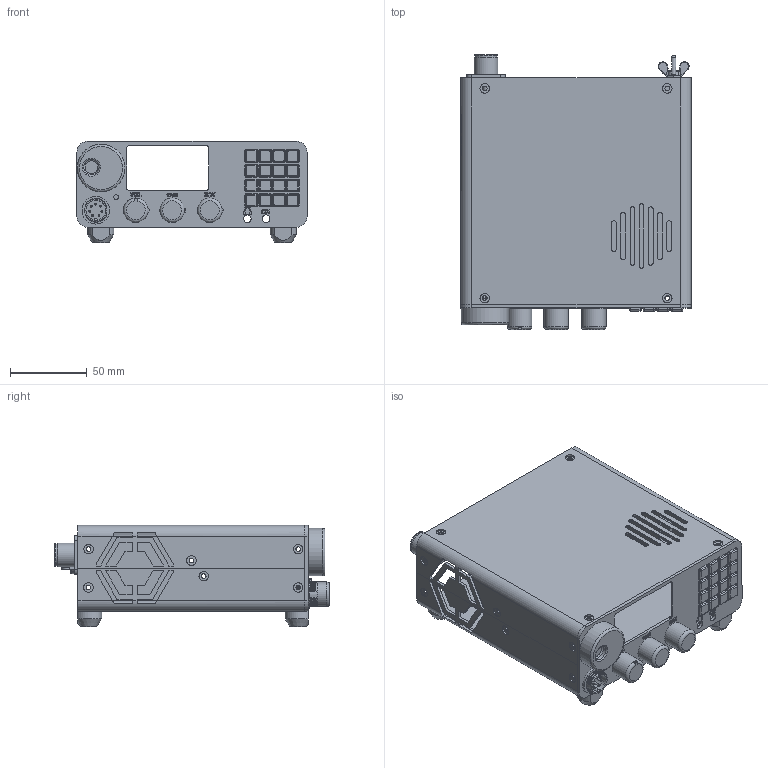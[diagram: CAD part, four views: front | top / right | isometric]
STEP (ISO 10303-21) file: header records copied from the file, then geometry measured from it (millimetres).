
FILE_DESCRIPTION(('STEP AP242 Edition 2','STEP AP242 Edition 2''CAx-IF Rec.Pracs.---Representation and Presentation of Product Manufacturing Information (PMI)---4.0---2014-10-13','STEP AP242 Edition 2''CAx-IF Rec.Pracs.---Representation and Presentation of Product Manufacturing Information (PMI)---4.0---2014-10-13''CAx-IF Rec.Pracs.---3D Tessellated Geometry---0.4---2014-09-14','STEP AP242 Edition 2''CAx-IF Rec.Pracs.---Representation and Presentation of Product Manufacturing Information (PMI)---4.0---2014-10-13''CAx-IF Rec.Pracs.---3D Tessellated Geometry---0.4---2014-09-14''2;1','STEP AP242 Edition 2''CAx-IF Rec.Pracs.---Representation and Presentation of Product Manufacturing Information (PMI)---4.0---2014-10-13''CAx-IF Rec.Pracs.---3D Tessellated Geometry---0.4---2014-09-14''2;1''CAx-IF Rec.Pracs.---User Defined Attributes---1.5---2016-08-15'),'2;1');
FILE_NAME('/vol/tmp/translate-14856278467027873836/Part Studio 1.step','2026-03-10T20:35:30',(''),(''),'ST-DEVELOPER v20','ONSHAPE BY PTC INC, 1.211',' ');
FILE_SCHEMA(('AP242_MANAGED_MODEL_BASED_3D_ENGINEERING_MIM_LF { 1 0 10303 442 3 1 4 }'));
Products named in the file (34): Part 11; top-case; bottom-case; Part 2; Part 3; Part 4; Part 5; Part 18; Part 19; Part 20; Part 21; Part 17; Part 16; Part 15; Part 14; Part 10; Part 12; Part 13; front-panel; Part 8; Part 7; Part 6; Part 9; Part 41; Part 42; Part 44; Part 43; Aviation connector _gx16-8; LSS-Adapter - XT60_Stecker; Female USB Type C Connector, RPi4ModelB; wing nut 01_din_DIN 315-M4-GT-C-N; SO-239
Bounding box: 150 x 179.29 x 66 mm (x, y, z)
Volume: 145552.4 mm3; surface area: 158569.1 mm2
Topology: 34 solids, 34 shells, 2957 faces, 7607 edges, 4827 vertices
Faces by surface type: plane 1349, cylinder 943, bspline 359, torus 219, sphere 67, cone 20
Full cylindrical faces by diameter (mm): 1.22 x7, 1.5 x8, 1.524 x1, 2.438 x1, 2.8 x9, 3 x31, 3.2 x2, 3.25 x1, 3.3 x1, 3.302 x1, 3.4 x1, 3.5 x2, 3.556 x4, 3.683 x1, 4 x14, 4.4 x4, 4.5 x2, 4.953 x1, 5 x4, 5.2 x2, 5.8 x3, 5.82 x1, 6 x2, 6.2 x24, 6.35 x2, 6.6 x4, 6.8 x3, 7.62 x1, 10 x2, 12 x1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
Entity records: 99246 total; most frequent: CARTESIAN_POINT 26178, ORIENTED_EDGE 14498, DIRECTION 13191, EDGE_CURVE 7249, VERTEX_POINT 4741, AXIS2_PLACEMENT_3D 4607, LINE 3977, VECTOR 3977
